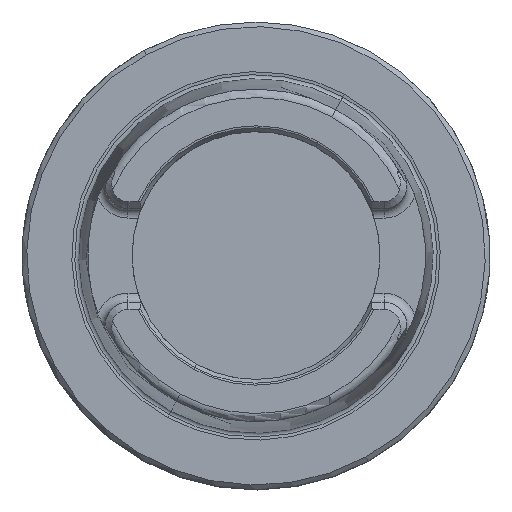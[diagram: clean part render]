
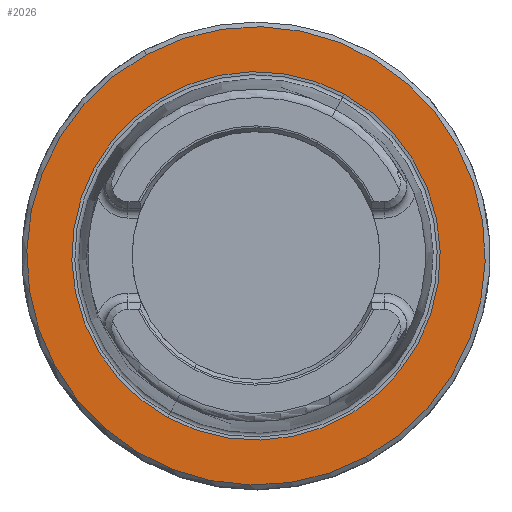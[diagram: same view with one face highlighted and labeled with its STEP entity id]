
A CAD part, top view. The second image highlights one B-rep face of the part: STEP entity #2026.
In plain terms, the highlighted planar face has unit normal (0, 0, 1).
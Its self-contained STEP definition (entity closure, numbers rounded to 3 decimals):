
#1963=AXIS2_PLACEMENT_3D('Circle Axis2P3D',#1961,#1962,$) ;
#1989=AXIS2_PLACEMENT_3D('Circle Axis2P3D',#1987,#1988,$) ;
#2002=AXIS2_PLACEMENT_3D('Plane Axis2P3D',#1999,#2000,#2001) ;
#2006=AXIS2_PLACEMENT_3D('Circle Axis2P3D',#2004,#2005,$) ;
#2015=AXIS2_PLACEMENT_3D('Circle Axis2P3D',#2013,#2014,$) ;
#1961=CARTESIAN_POINT('Axis2P3D Location',(0.,0.,0.)) ;
#1965=CARTESIAN_POINT('Vertex',(-18.88,-34.56,0.)) ;
#1967=CARTESIAN_POINT('Vertex',(18.88,34.56,0.)) ;
#1987=CARTESIAN_POINT('Axis2P3D Location',(0.,0.,0.)) ;
#1999=CARTESIAN_POINT('Axis2P3D Location',(0.,-38.285,0.)) ;
#2004=CARTESIAN_POINT('Axis2P3D Location',(0.,0.,0.)) ;
#2008=CARTESIAN_POINT('Vertex',(23.492,-43.002,0.)) ;
#2010=CARTESIAN_POINT('Vertex',(-23.492,43.002,0.)) ;
#2013=CARTESIAN_POINT('Axis2P3D Location',(0.,0.,0.)) ;
#1962=DIRECTION('Axis2P3D Direction',(0.,0.,1.)) ;
#1988=DIRECTION('Axis2P3D Direction',(0.,0.,1.)) ;
#2000=DIRECTION('Axis2P3D Direction',(0.,0.,-1.)) ;
#2001=DIRECTION('Axis2P3D XDirection',(-1.,0.,0.)) ;
#2005=DIRECTION('Axis2P3D Direction',(0.,0.,-1.)) ;
#2014=DIRECTION('Axis2P3D Direction',(0.,0.,-1.)) ;
#2019=ORIENTED_EDGE('',*,*,#2012,.F.) ;
#2020=ORIENTED_EDGE('',*,*,#2017,.F.) ;
#2023=ORIENTED_EDGE('',*,*,#1991,.T.) ;
#2024=ORIENTED_EDGE('',*,*,#1969,.T.) ;
#2025=FACE_BOUND('',#2022,.T.) ;
#2026=ADVANCED_FACE('NO_CUT',(#2021,#2025),#2003,.F.) ;
#1964=CIRCLE('generated circle',#1963,39.381) ;
#1990=CIRCLE('generated circle',#1989,39.381) ;
#2007=CIRCLE('generated circle',#2006,49.) ;
#2016=CIRCLE('generated circle',#2015,49.) ;
#1969=EDGE_CURVE('',#1966,#1968,#1964,.F.) ;
#1991=EDGE_CURVE('',#1968,#1966,#1990,.F.) ;
#2012=EDGE_CURVE('',#2009,#2011,#2007,.T.) ;
#2017=EDGE_CURVE('',#2011,#2009,#2016,.T.) ;
#2018=EDGE_LOOP('',(#2019,#2020)) ;
#2022=EDGE_LOOP('',(#2023,#2024)) ;
#2021=FACE_OUTER_BOUND('',#2018,.T.) ;
#2003=PLANE('',#2002) ;
#1966=VERTEX_POINT('',#1965) ;
#1968=VERTEX_POINT('',#1967) ;
#2009=VERTEX_POINT('',#2008) ;
#2011=VERTEX_POINT('',#2010) ;
